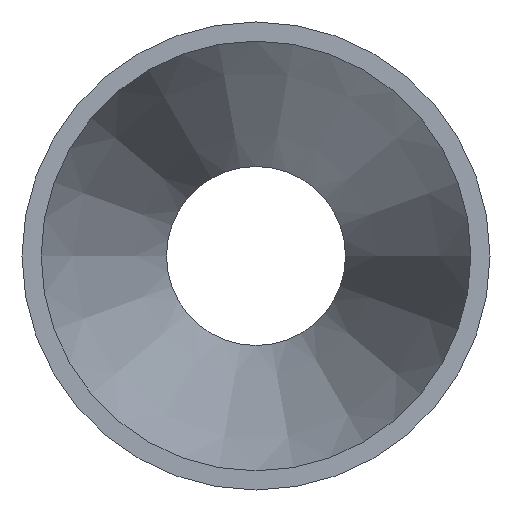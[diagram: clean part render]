
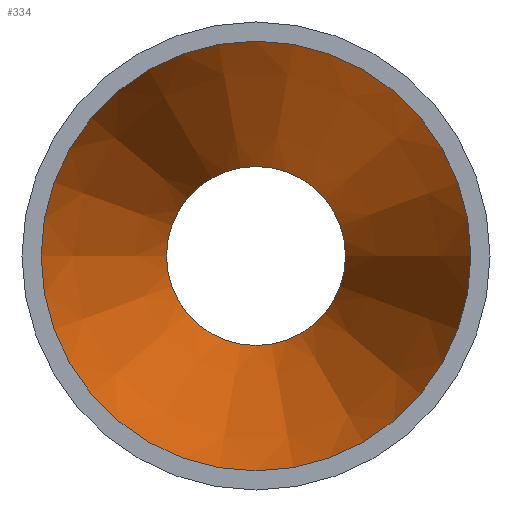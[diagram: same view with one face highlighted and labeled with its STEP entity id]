
A CAD part, left-side view. The second image highlights one B-rep face of the part: STEP entity #334.
In plain terms, the highlighted conical face has half-angle 17.249 degrees and reference radius 23.749 mm.
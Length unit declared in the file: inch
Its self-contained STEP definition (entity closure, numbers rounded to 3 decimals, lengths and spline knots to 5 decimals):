
#66=FACE_OUTER_BOUND('',#82,.T.);
#82=EDGE_LOOP('',(#235,#236,#237,#238,#239,#240));
#104=LINE('',#580,#114);
#114=VECTOR('',#447,0.935);
#127=CIRCLE('',#375,0.55);
#128=CIRCLE('',#376,1.32);
#129=CIRCLE('',#377,1.32);
#130=CIRCLE('',#378,0.55);
#159=VERTEX_POINT('',#576);
#160=VERTEX_POINT('',#577);
#161=VERTEX_POINT('',#579);
#162=VERTEX_POINT('',#581);
#192=EDGE_CURVE('',#159,#160,#127,.T.);
#193=EDGE_CURVE('',#160,#161,#104,.T.);
#194=EDGE_CURVE('',#162,#161,#128,.T.);
#195=EDGE_CURVE('',#161,#162,#129,.T.);
#196=EDGE_CURVE('',#160,#159,#130,.T.);
#235=ORIENTED_EDGE('',*,*,#192,.T.);
#236=ORIENTED_EDGE('',*,*,#193,.T.);
#237=ORIENTED_EDGE('',*,*,#194,.F.);
#238=ORIENTED_EDGE('',*,*,#195,.F.);
#239=ORIENTED_EDGE('',*,*,#193,.F.);
#240=ORIENTED_EDGE('',*,*,#196,.T.);
#314=CONICAL_SURFACE('',#374,0.935,0.301);
#334=ADVANCED_FACE('',(#66),#314,.F.);
#374=AXIS2_PLACEMENT_3D('',#575,#443,#444);
#375=AXIS2_PLACEMENT_3D('',#578,#445,#446);
#376=AXIS2_PLACEMENT_3D('',#582,#448,#449);
#377=AXIS2_PLACEMENT_3D('',#583,#450,#451);
#378=AXIS2_PLACEMENT_3D('',#584,#452,#453);
#443=DIRECTION('center_axis',(-1.,0.,0.));
#444=DIRECTION('ref_axis',(0.,1.,0.));
#445=DIRECTION('center_axis',(1.,0.,0.));
#446=DIRECTION('ref_axis',(0.,1.,0.));
#447=DIRECTION('',(-0.955,-0.297,0.));
#448=DIRECTION('center_axis',(1.,0.,0.));
#449=DIRECTION('ref_axis',(0.,1.,0.));
#450=DIRECTION('center_axis',(1.,0.,0.));
#451=DIRECTION('ref_axis',(0.,1.,0.));
#452=DIRECTION('center_axis',(1.,0.,0.));
#453=DIRECTION('ref_axis',(0.,1.,0.));
#575=CARTESIAN_POINT('Origin',(2.5,0.,0.));
#576=CARTESIAN_POINT('',(3.74,0.55,0.));
#577=CARTESIAN_POINT('',(3.74,-0.55,0.));
#578=CARTESIAN_POINT('Origin',(3.74,0.,0.));
#579=CARTESIAN_POINT('',(1.26,-1.32,0.));
#580=CARTESIAN_POINT('',(2.5,-0.935,0.));
#581=CARTESIAN_POINT('',(1.26,1.32,0.));
#582=CARTESIAN_POINT('Origin',(1.26,0.,0.));
#583=CARTESIAN_POINT('Origin',(1.26,0.,0.));
#584=CARTESIAN_POINT('Origin',(3.74,0.,0.));
